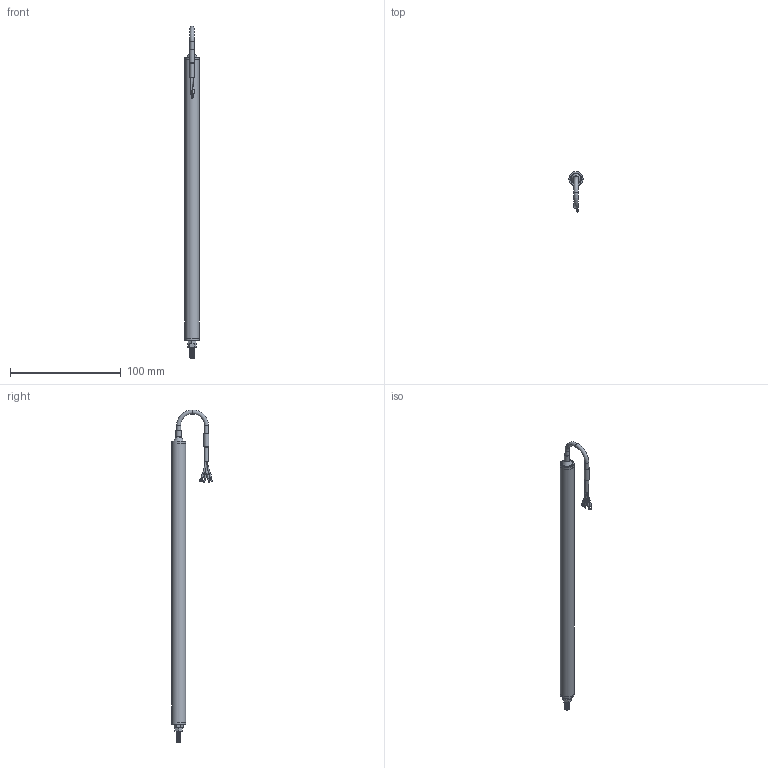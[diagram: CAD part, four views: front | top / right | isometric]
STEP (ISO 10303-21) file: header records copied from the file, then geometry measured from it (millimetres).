
FILE_DESCRIPTION(/* description */ (''),/* implementation_level */ '2;1');
FILE_NAME(/* name */ 'LPPS-12-200-A Assembly (wrapped).step',/* time_stamp */ '2023-10-10T09:59:26-04:00',/* author */ ('TSC_Grant'),/* organization */ (''),/* preprocessor_version */ 'ST-DEVELOPER v19.2',/* originating_system */ 'Autodesk Inventor 2024',/* authorisation */ '');
FILE_SCHEMA (('AUTOMOTIVE_DESIGN { 1 0 10303 214 3 1 1 }'));
Length unit declared in the file: inch
Products named in the file (4): LPPS-12-010-A Assembly (wrapped); LPPS-12-010-A Body (wrapped); LPPS-12-010-A Assembly_Simplify_1; Wire
Assembly tree (3 placements, depth 2):
  LPPS-12-010-A Assembly (wrapped)
    LPPS-12-010-A Body (wrapped)
    LPPS-12-010-A Assembly_Simplify_1
    Wire
Bounding box: 12.7 x 36.8 x 299.24 mm (x, y, z)
Volume: 33140.4 mm3; surface area: 18570.2 mm2
Topology: 13 solids, 13 shells, 133 faces, 286 edges, 190 vertices
Faces by surface type: plane 75, cylinder 44, bspline 8, torus 5, cone 1
Full cylindrical faces by diameter (mm): 1.016 x3, 1.27 x1, 1.524 x3, 1.651 x2, 3.632 x6, 3.937 x8, 4.191 x1, 4.445 x1, 4.826 x1, 12.7 x3
Entity records: 5483 total; most frequent: CARTESIAN_POINT 2222, DIRECTION 619, ORIENTED_EDGE 572, EDGE_CURVE 286, AXIS2_PLACEMENT_3D 236, VERTEX_POINT 190, EDGE_LOOP 150, LINE 147
